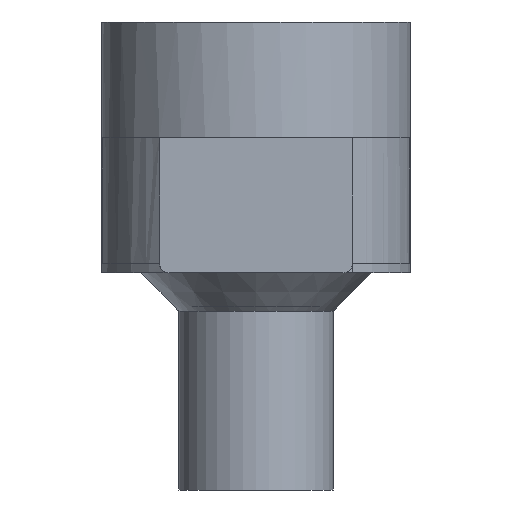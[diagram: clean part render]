
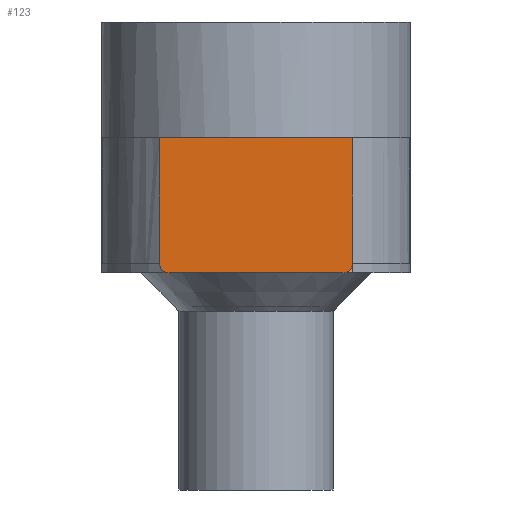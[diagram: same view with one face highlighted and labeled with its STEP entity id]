
A CAD part, front view. The second image highlights one B-rep face of the part: STEP entity #123.
In plain terms, the highlighted planar face has unit normal (0, -1, 0).
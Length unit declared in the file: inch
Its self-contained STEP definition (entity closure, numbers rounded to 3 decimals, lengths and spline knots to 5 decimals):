
#96=PLANE('',#502);
#108=FACE_OUTER_BOUND('',#207,.T.);
#123=ADVANCED_FACE('',(#108),#96,.T.);
#207=EDGE_LOOP('',(#333,#334,#335,#336,#337,#338));
#247=LINE('',#736,#264);
#250=LINE('',#743,#267);
#253=LINE('',#749,#270);
#255=LINE('',#753,#272);
#264=VECTOR('',#567,1.);
#267=VECTOR('',#574,1.);
#270=VECTOR('',#579,1.);
#272=VECTOR('',#583,1.);
#284=CIRCLE('',#500,0.0625);
#285=CIRCLE('',#501,0.0625);
#333=ORIENTED_EDGE('',*,*,#444,.T.);
#334=ORIENTED_EDGE('',*,*,#453,.T.);
#335=ORIENTED_EDGE('',*,*,#450,.T.);
#336=ORIENTED_EDGE('',*,*,#452,.T.);
#337=ORIENTED_EDGE('',*,*,#447,.T.);
#338=ORIENTED_EDGE('',*,*,#454,.T.);
#405=VERTEX_POINT('',#735);
#406=VERTEX_POINT('',#737);
#407=VERTEX_POINT('',#742);
#408=VERTEX_POINT('',#744);
#409=VERTEX_POINT('',#748);
#410=VERTEX_POINT('',#750);
#444=EDGE_CURVE('',#406,#405,#247,.T.);
#447=EDGE_CURVE('',#408,#407,#250,.T.);
#450=EDGE_CURVE('',#410,#409,#253,.T.);
#452=EDGE_CURVE('',#409,#408,#255,.T.);
#453=EDGE_CURVE('',#405,#410,#284,.T.);
#454=EDGE_CURVE('',#407,#406,#285,.T.);
#500=AXIS2_PLACEMENT_3D('',#755,#586,#587);
#501=AXIS2_PLACEMENT_3D('',#756,#588,#589);
#502=AXIS2_PLACEMENT_3D('',#757,#590,#591);
#567=DIRECTION('',(1.,0.,0.));
#574=DIRECTION('',(0.,0.,-1.));
#579=DIRECTION('',(0.,0.,1.));
#583=DIRECTION('',(-1.,0.,0.));
#586=DIRECTION('',(0.,-1.,0.));
#587=DIRECTION('',(0.,0.,-1.));
#588=DIRECTION('',(0.,-1.,0.));
#589=DIRECTION('',(0.,0.,-1.));
#590=DIRECTION('',(0.,-1.,0.));
#591=DIRECTION('',(0.,0.,-1.));
#735=CARTESIAN_POINT('',(0.5625,-12.8125,-0.875));
#736=CARTESIAN_POINT('',(0.71875,-12.8125,-0.875));
#737=CARTESIAN_POINT('',(-0.5625,-12.8125,-0.875));
#742=CARTESIAN_POINT('',(-0.625,-12.8125,-0.8125));
#743=CARTESIAN_POINT('',(-0.625,-12.8125,-1.78125));
#744=CARTESIAN_POINT('',(-0.625,-12.8125,0.));
#748=CARTESIAN_POINT('',(0.625,-12.8125,0.));
#749=CARTESIAN_POINT('',(0.625,-12.8125,-1.78125));
#750=CARTESIAN_POINT('',(0.625,-12.8125,-0.8125));
#753=CARTESIAN_POINT('',(1.,-12.8125,0.));
#755=CARTESIAN_POINT('',(0.5625,-12.8125,-0.8125));
#756=CARTESIAN_POINT('',(-0.5625,-12.8125,-0.8125));
#757=CARTESIAN_POINT('',(0.,-12.8125,-0.4375));
